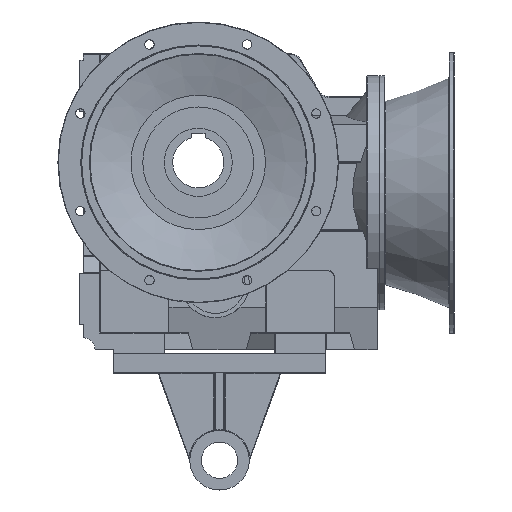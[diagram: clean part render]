
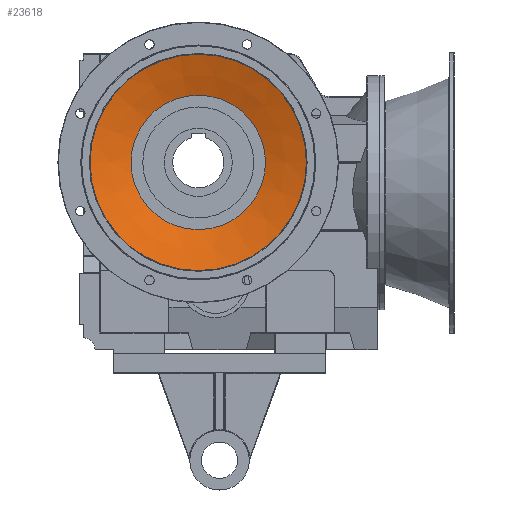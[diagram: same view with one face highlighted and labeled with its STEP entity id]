
A CAD part, front view. The second image highlights one B-rep face of the part: STEP entity #23618.
In plain terms, the highlighted conical face has half-angle 72.646 degrees and reference radius 206.5 mm.
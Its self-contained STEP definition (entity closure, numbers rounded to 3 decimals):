
#23556=CARTESIAN_POINT('',(-254.298,-34.32,0.));
#23557=VERTEX_POINT('',#23556);
#23558=CARTESIAN_POINT('',(0.0,-34.32,0.));
#23559=DIRECTION('',(0.0,1.0,0.0));
#23560=DIRECTION('',(1.0,0.0,0.0));
#23561=AXIS2_PLACEMENT_3D('',#23558,#23559,#23560);
#23562=CIRCLE('',#23561,254.298);
#23563=EDGE_CURVE('',#23557,#23557,#23562,.T.);
#23599=CARTESIAN_POINT('',(0.0,-19.383,0.0));
#23600=DIRECTION('',(0.0,-1.0,0.0));
#23601=DIRECTION('',(-1.0,0.0,0.0));
#23602=AXIS2_PLACEMENT_3D('',#23599,#23600,#23601);
#23603=CONICAL_SURFACE('',#23602,206.5,72.646);
#23604=CARTESIAN_POINT('',(-158.0,-4.227,0.));
#23605=VERTEX_POINT('',#23604);
#23606=CARTESIAN_POINT('',(0.0,-4.227,0.0));
#23607=DIRECTION('',(0.0,1.0,0.0));
#23608=DIRECTION('',(-1.0,0.0,0.0));
#23609=AXIS2_PLACEMENT_3D('',#23606,#23607,#23608);
#23610=CIRCLE('',#23609,158.0);
#23611=EDGE_CURVE('',#23605,#23605,#23610,.T.);
#23612=ORIENTED_EDGE('',*,*,#23611,.T.);
#23613=EDGE_LOOP('',(#23612));
#23614=FACE_OUTER_BOUND('',#23613,.T.);
#23615=ORIENTED_EDGE('',*,*,#23563,.F.);
#23616=EDGE_LOOP('',(#23615));
#23617=FACE_BOUND('',#23616,.T.);
#23618=ADVANCED_FACE('',(#23614,#23617),#23603,.F.);
